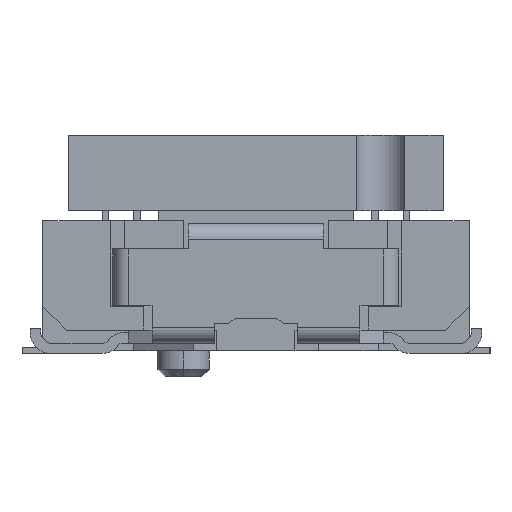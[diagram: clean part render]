
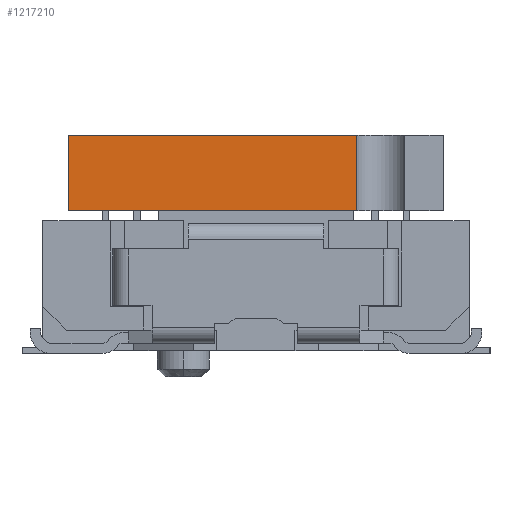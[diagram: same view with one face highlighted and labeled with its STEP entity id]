
A CAD part, left-side view. The second image highlights one B-rep face of the part: STEP entity #1217210.
In plain terms, the highlighted planar face has unit normal (-1, 0, 0).
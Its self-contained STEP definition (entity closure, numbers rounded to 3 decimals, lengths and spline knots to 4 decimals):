
#1198870=CARTESIAN_POINT('',(-7.6914,0.,4.));
#1198880=DIRECTION('',(0.,1.,0.));
#1198890=VECTOR('',#1198880,1.);
#1198900=LINE('',#1198870,#1198890);
#1199000=CARTESIAN_POINT('',(-7.6914,-1.5198,4.));
#1199010=VERTEX_POINT('',#1199000);
#1199040=CARTESIAN_POINT('',(-7.6914,4.0219,4.));
#1199050=VERTEX_POINT('',#1199040);
#1199060=EDGE_CURVE('',#1199010,#1199050,#1198900,.T.);
#1199630=CARTESIAN_POINT('',(-7.6914,4.0219,2.55));
#1199640=VERTEX_POINT('',#1199630);
#1199670=CARTESIAN_POINT('',(-7.6914,0.,2.55));
#1199680=DIRECTION('',(0.,-1.,0.));
#1199690=VECTOR('',#1199680,1.);
#1199700=LINE('',#1199670,#1199690);
#1199710=CARTESIAN_POINT('',(-7.6914,-1.5198,2.55));
#1199720=VERTEX_POINT('',#1199710);
#1199730=EDGE_CURVE('',#1199640,#1199720,#1199700,.T.);
#1216800=CARTESIAN_POINT('',(-7.6914,-1.5198,-0.4));
#1216810=DIRECTION('',(0.,0.,1.));
#1216820=VECTOR('',#1216810,1.);
#1216830=LINE('',#1216800,#1216820);
#1216840=EDGE_CURVE('',#1199720,#1199010,#1216830,.T.);
#1216940=CARTESIAN_POINT('',(-7.6914,4.0219,0.));
#1216950=DIRECTION('',(0.,0.,-1.));
#1216960=VECTOR('',#1216950,1.);
#1216970=LINE('',#1216940,#1216960);
#1216980=EDGE_CURVE('',#1199050,#1199640,#1216970,.T.);
#1217100=CARTESIAN_POINT('',(-7.6914,4.7419,2.55));
#1217110=DIRECTION('',(-1.,0.,0.));
#1217120=DIRECTION('',(0.,0.,1.));
#1217130=AXIS2_PLACEMENT_3D('',#1217100,#1217110,#1217120);
#1217140=PLANE('',#1217130);
#1217150=ORIENTED_EDGE('',*,*,#1199730,.T.);
#1217160=ORIENTED_EDGE('',*,*,#1216980,.T.);
#1217170=ORIENTED_EDGE('',*,*,#1199060,.T.);
#1217180=ORIENTED_EDGE('',*,*,#1216840,.T.);
#1217190=EDGE_LOOP('',(#1217180,#1217170,#1217160,#1217150));
#1217200=FACE_OUTER_BOUND('',#1217190,.T.);
#1217210=ADVANCED_FACE('',(#1217200),#1217140,.T.);
